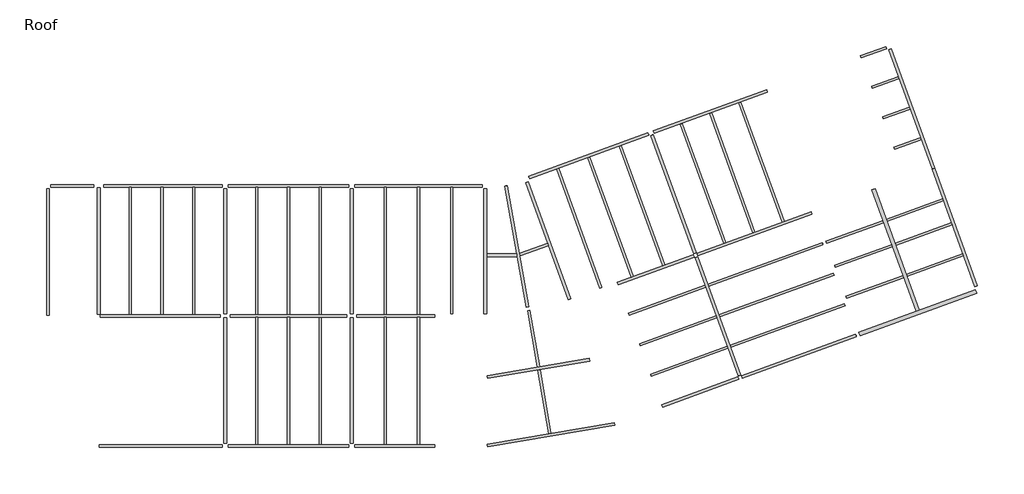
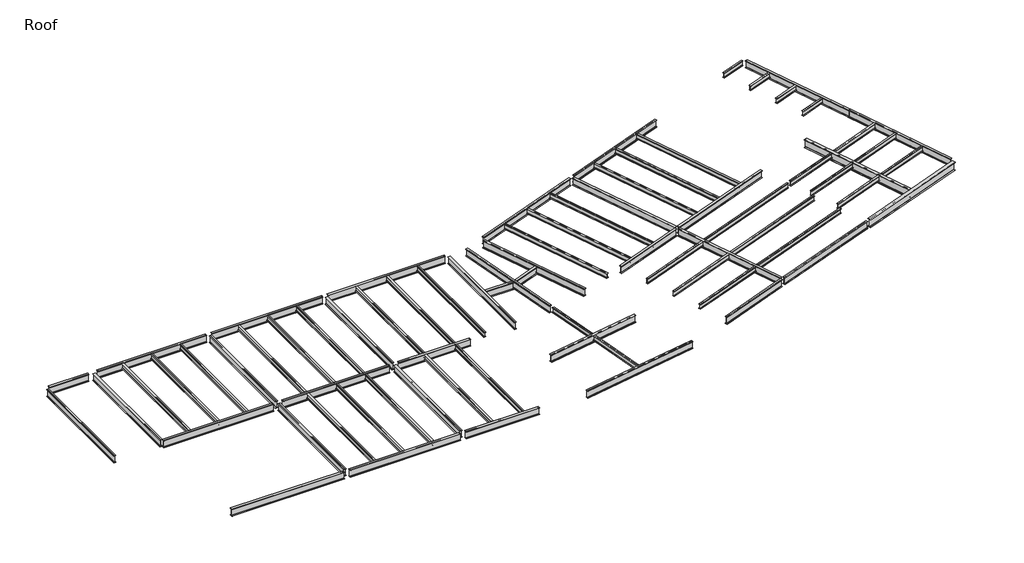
# One storey: 73 beams.
"""IFC4 building model written with IfcOpenShell, lengths in millimetres."""

from ifc_helpers import new_model, si_unit, origin, place, context, project, spatial, transform, mapped, element, save
from components import ub_universal_beams_ub305x127x37_f823aa85, ub_universal_beams_ub305x127x37_cdbcbb51, ub_universal_beams_ub305x127x37_8d1efc97, ub_universal_beams_ub305x127x37_2b7a043a, ub_universal_beams_ub305x127x37_8d2b0bf5, ub_universal_beams_ub305x127x37_16a75a32, ub_universal_beams_ub305x127x37_b9a7bbe5, ub_universal_beams_ub305x127x37_60794b88, ub_universal_beams_ub305x127x37_0c249d50, ub_universal_beams_ub305x127x37_83364cc9, ub_universal_beams_ub305x127x37_55dbae19, ub_universal_beams_ub305x127x37_a7926f5b, ub_universal_beams_ub457x152x67_feb0265b, ub_universal_beams_ub457x152x67_78ad538f, ub_universal_beams_ub457x152x67_801fcbf0, ub_universal_beams_ub457x152x67_7192e0ee, ub_universal_beams_ub457x152x67_e0a47d06, ub_universal_beams_ub457x152x67_f5dc209c, ub_universal_beams_ub457x152x67_f862a4b8, ub_universal_beams_ub457x152x67_66b76362, ub_universal_beams_ub457x152x67_d54c9229, ub_universal_beams_ub457x152x67_f4163d89, ub_universal_beams_ub457x152x67_2e62ce28, ub_universal_beams_ub457x152x67_04894bd8, ub_universal_beams_ub457x152x67_b17e2f2f, ub_universal_beams_ub457x152x67_b2f2df74, ub_universal_beams_ub457x152x67_b8e2def0, ub_universal_beams_ub457x152x67_2ff38e45, ub_universal_beams_ub457x152x67_e84ce350, ub_universal_beams_ub457x152x67_9db4b58f, ub_universal_beams_ub457x152x67_cb9275ae, ub_universal_beams_ub457x152x67_907c3d5a, ub_universal_beams_ub457x152x67_99134ce8, ub_universal_beams_ub457x152x67_aeb7bd67, ub_universal_beams_ub457x152x67_1f1a17ad, ub_universal_beams_ub457x152x67_691381ed, ub_universal_beams_ub457x152x67_d2a0b01a, ub_universal_beams_ub457x152x67_b2398499, ub_universal_beams_ub457x152x67_b57c4d69, ub_universal_beams_ub457x152x67_c54337ad, ub_universal_beams_ub533x210x82_8ec85ef7, ub_universal_beams_ub533x210x82_ef77b3a2

model = new_model("IFC4")

# Units and contexts
model_context = context("Model", 3, world=origin())
ifc_project = project(units=[si_unit("LENGTHUNIT", "METRE", prefix="MILLI")], contexts=[model_context])

# Site, building, storey
site = spatial("IfcSite", under=ifc_project)
building = spatial("IfcBuilding", under=site)
storey = spatial("IfcBuildingStorey", under=building, Name="Roof", Elevation=11700.0)

# Beams
placement = place(None, origin())
ub_universal_beams_ub305x127x37_shape = ub_universal_beams_ub305x127x37_f823aa85(model_context)
element("IfcBeam", 1, ObjectType="UB-Universal Beams : UB305x127x37", at=placement, inside=storey, context=model_context, shape_type="MappedRepresentation", body=[
    mapped(ub_universal_beams_ub305x127x37_shape, transform((9887.2000022, 11613.2000005, 11547.8), x_axis=(0.0, 1.0, 0.0), y_axis=(-1.0, 0.0, 0.0), z_axis=(0.0, 0.0, 1.0))),
])
element("IfcBeam", 2, ObjectType="UB-Universal Beams : UB305x127x37", at=placement, inside=storey, context=model_context, shape_type="MappedRepresentation", body=[
    mapped(ub_universal_beams_ub305x127x37_shape, transform((11712.2000022, 11613.2000005, 11547.8), x_axis=(0.0, 1.0, 0.0), y_axis=(-1.0, 0.0, 0.0), z_axis=(0.0, 0.0, 1.0))),
])
element("IfcBeam", 3, ObjectType="UB-Universal Beams : UB305x127x37", at=placement, inside=storey, context=model_context, shape_type="MappedRepresentation", body=[
    mapped(ub_universal_beams_ub305x127x37_shape, transform((13537.2000023, 11613.2000005, 11547.8), x_axis=(0.0, 1.0, 0.0), y_axis=(-1.0, 0.0, 0.0), z_axis=(0.0, 0.0, 1.0))),
])
element("IfcBeam", 4, ObjectType="UB-Universal Beams : UB305x127x37", at=placement, inside=storey, context=model_context, shape_type="MappedRepresentation", body=[
    mapped(ub_universal_beams_ub305x127x37_shape, transform((17187.2000023, 11613.2000005, 11547.8), x_axis=(0.0, 1.0, 0.0), y_axis=(-1.0, 0.0, 0.0), z_axis=(0.0, 0.0, 1.0))),
])
element("IfcBeam", 5, ObjectType="UB-Universal Beams : UB305x127x37", at=placement, inside=storey, context=model_context, shape_type="MappedRepresentation", body=[
    mapped(ub_universal_beams_ub305x127x37_shape, transform((19012.2000023, 11613.2000005, 11547.8), x_axis=(0.0, 1.0, 0.0), y_axis=(-1.0, 0.0, 0.0), z_axis=(0.0, 0.0, 1.0))),
])
element("IfcBeam", 6, ObjectType="UB-Universal Beams : UB305x127x37", at=placement, inside=storey, context=model_context, shape_type="MappedRepresentation", body=[
    mapped(ub_universal_beams_ub305x127x37_shape, transform((20837.2000022, 11613.2000005, 11547.8), x_axis=(0.0, 1.0, 0.0), y_axis=(-1.0, 0.0, 0.0), z_axis=(0.0, 0.0, 1.0))),
])
element("IfcBeam", 7, ObjectType="UB-Universal Beams : UB305x127x37", at=placement, inside=storey, context=model_context, shape_type="MappedRepresentation", body=[
    mapped(ub_universal_beams_ub305x127x37_shape, transform((24587.2000022, 11613.2000005, 11547.8), x_axis=(0.0, 1.0, 0.0), y_axis=(-1.0, 0.0, 0.0), z_axis=(0.0, 0.0, 1.0))),
])
element("IfcBeam", 8, ObjectType="UB-Universal Beams : UB305x127x37", at=placement, inside=storey, context=model_context, shape_type="MappedRepresentation", body=[
    mapped(ub_universal_beams_ub305x127x37_shape, transform((26512.2000022, 11613.2000005, 11547.8), x_axis=(0.0, 1.0, 0.0), y_axis=(-1.0, 0.0, 0.0), z_axis=(0.0, 0.0, 1.0))),
])
element("IfcBeam", 9, ObjectType="UB-Universal Beams : UB305x127x37", at=placement, inside=storey, context=model_context, shape_type="MappedRepresentation", body=[
    mapped(ub_universal_beams_ub305x127x37_shape, transform((17187.2000022, 4113.2000005, 11547.8), x_axis=(0.0, 1.0, 0.0), y_axis=(-1.0, 0.0, 0.0), z_axis=(0.0, 0.0, 1.0))),
])
element("IfcBeam", 10, ObjectType="UB-Universal Beams : UB305x127x37", at=placement, inside=storey, context=model_context, shape_type="MappedRepresentation", body=[
    mapped(ub_universal_beams_ub305x127x37_shape, transform((19012.2000022, 4113.2000005, 11547.8), x_axis=(0.0, 1.0, 0.0), y_axis=(-1.0, 0.0, 0.0), z_axis=(0.0, 0.0, 1.0))),
])
element("IfcBeam", 11, ObjectType="UB-Universal Beams : UB305x127x37", at=placement, inside=storey, context=model_context, shape_type="MappedRepresentation", body=[
    mapped(ub_universal_beams_ub305x127x37_shape, transform((20837.2000022, 4113.2000005, 11547.8), x_axis=(0.0, 1.0, 0.0), y_axis=(-1.0, 0.0, 0.0), z_axis=(0.0, 0.0, 1.0))),
])
element("IfcBeam", 12, ObjectType="UB-Universal Beams : UB305x127x37", at=placement, inside=storey, context=model_context, shape_type="MappedRepresentation", body=[
    mapped(ub_universal_beams_ub305x127x37_shape, transform((24587.2000022, 4113.2000004, 11547.8), x_axis=(0.0, 1.0, 0.0), y_axis=(-1.0, 0.0, 0.0), z_axis=(0.0, 0.0, 1.0))),
])
element("IfcBeam", 13, ObjectType="UB-Universal Beams : UB305x127x37", at=placement, inside=storey, context=model_context, shape_type="MappedRepresentation", body=[
    mapped(ub_universal_beams_ub305x127x37_shape, transform((26512.2000022, 4113.2000004, 11547.8), x_axis=(0.0, 1.0, 0.0), y_axis=(-1.0, 0.0, 0.0), z_axis=(0.0, 0.0, 1.0))),
])
element("IfcBeam", 14, ObjectType="UB-Universal Beams : UB305x127x37", at=placement, inside=storey, context=model_context, shape_type="MappedRepresentation", body=[
    mapped(ub_universal_beams_ub305x127x37_shape, transform((39409.0148654, 14226.6858637, 11547.8), x_axis=(0.34202014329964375, -0.9396926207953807, 0.0), y_axis=(0.9396926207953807, 0.34202014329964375, 0.0), z_axis=(0.0, 0.0, 1.0))),
])
element("IfcBeam", 15, ObjectType="UB-Universal Beams : UB305x127x37", at=placement, inside=storey, context=model_context, shape_type="MappedRepresentation", body=[
    mapped(ub_universal_beams_ub305x127x37_shape, transform((37600.1065704, 13568.2970878, 11547.8), x_axis=(0.34202014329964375, -0.9396926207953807, 0.0), y_axis=(0.9396926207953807, 0.34202014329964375, 0.0), z_axis=(0.0, 0.0, 1.0))),
])
element("IfcBeam", 16, ObjectType="UB-Universal Beams : UB305x127x37", at=placement, inside=storey, context=model_context, shape_type="MappedRepresentation", body=[
    mapped(ub_universal_beams_ub305x127x37_shape, transform((42915.2429568, 15502.8485233, 11547.8), x_axis=(-0.3420201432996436, 0.9396926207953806, 0.0), y_axis=(-0.9396926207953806, -0.3420201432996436, 0.0), z_axis=(0.0, 0.0, 1.0))),
])
element("IfcBeam", 17, ObjectType="UB-Universal Beams : UB305x127x37", at=placement, inside=storey, context=model_context, shape_type="MappedRepresentation", body=[
    mapped(ub_universal_beams_ub305x127x37_shape, transform((44612.5627531, 16120.6224071, 11547.8), x_axis=(-0.34202014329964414, 0.9396926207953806, 0.0), y_axis=(-0.9396926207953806, -0.34202014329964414, 0.0), z_axis=(0.0, 0.0, 1.0))),
])
element("IfcBeam", 18, ObjectType="UB-Universal Beams : UB305x127x37", at=placement, inside=storey, context=model_context, shape_type="MappedRepresentation", body=[
    mapped(ub_universal_beams_ub305x127x37_shape, transform((46309.8825494, 16738.396291, 11547.8), x_axis=(-0.34202014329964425, 0.9396926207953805, 0.0), y_axis=(-0.9396926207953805, -0.34202014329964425, 0.0), z_axis=(0.0, 0.0, 1.0))),
])
ub_universal_beams_ub305x127x37_2_shape = ub_universal_beams_ub305x127x37_cdbcbb51(model_context)
element("IfcBeam", 19, ObjectType="UB-Universal Beams : UB305x127x37", at=placement, inside=storey, context=model_context, shape_type="MappedRepresentation", body=[
    mapped(ub_universal_beams_ub305x127x37_2_shape, transform((28437.2000022, 11613.2000005, 11547.8), x_axis=(0.0, 1.0, 0.0), y_axis=(-1.0, 0.0, 0.0), z_axis=(0.0, 0.0, 1.0))),
])
ub_universal_beams_ub305x127x37_3_shape = ub_universal_beams_ub305x127x37_8d1efc97(model_context)
element("IfcBeam", 20, ObjectType="UB-Universal Beams : UB305x127x37", at=placement, inside=storey, context=model_context, shape_type="MappedRepresentation", body=[
    mapped(ub_universal_beams_ub305x127x37_3_shape, transform((35791.1982754, 12909.908312, 11547.8), x_axis=(0.3420201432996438, -0.9396926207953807, 0.0), y_axis=(0.9396926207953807, 0.3420201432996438, 0.0), z_axis=(0.0, 0.0, 1.0))),
])
ub_universal_beams_ub305x127x37_4_shape = ub_universal_beams_ub305x127x37_2b7a043a(model_context)
element("IfcBeam", 21, ObjectType="UB-Universal Beams : UB305x127x37", at=placement, inside=storey, context=model_context, shape_type="MappedRepresentation", body=[
    mapped(ub_universal_beams_ub305x127x37_4_shape, transform((42122.1150828, 5237.5069684, 11547.8), x_axis=(-0.939692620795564, -0.3420201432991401, 0.0), y_axis=(0.3420201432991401, -0.939692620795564, 0.0), z_axis=(0.0, 0.0, 1.0))),
])
element("IfcBeam", 22, ObjectType="UB-Universal Beams : UB305x127x37", at=placement, inside=storey, context=model_context, shape_type="MappedRepresentation", body=[
    mapped(ub_universal_beams_ub305x127x37_4_shape, transform((41480.8273141, 6999.4306323, 11547.8), x_axis=(-0.9396926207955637, -0.3420201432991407, 0.0), y_axis=(0.3420201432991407, -0.9396926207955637, 0.0), z_axis=(0.0, 0.0, 1.0))),
])
element("IfcBeam", 23, ObjectType="UB-Universal Beams : UB305x127x37", at=placement, inside=storey, context=model_context, shape_type="MappedRepresentation", body=[
    mapped(ub_universal_beams_ub305x127x37_4_shape, transform((40839.5395455, 8761.3542963, 11547.8), x_axis=(-0.939692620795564, -0.3420201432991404, 0.0), y_axis=(0.3420201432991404, -0.939692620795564, 0.0), z_axis=(0.0, 0.0, 1.0))),
])
ub_universal_beams_ub305x127x37_5_shape = ub_universal_beams_ub305x127x37_8d2b0bf5(model_context)
element("IfcBeam", 24, ObjectType="UB-Universal Beams : UB305x127x37", at=placement, inside=storey, context=model_context, shape_type="MappedRepresentation", body=[
    mapped(ub_universal_beams_ub305x127x37_5_shape, transform((46536.4260592, 10834.8514152, 11547.8), x_axis=(0.9396926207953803, 0.342020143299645, 0.0), y_axis=(-0.342020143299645, 0.9396926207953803, 0.0), z_axis=(0.0, 0.0, 1.0))),
])
element("IfcBeam", 25, ObjectType="UB-Universal Beams : UB305x127x37", at=placement, inside=storey, context=model_context, shape_type="MappedRepresentation", body=[
    mapped(ub_universal_beams_ub305x127x37_5_shape, transform((47177.7138279, 9072.9277512, 11547.8), x_axis=(0.93969262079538, 0.34202014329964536, 0.0), y_axis=(-0.34202014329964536, 0.93969262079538, 0.0), z_axis=(0.0, 0.0, 1.0))),
])
element("IfcBeam", 26, ObjectType="UB-Universal Beams : UB305x127x37", at=placement, inside=storey, context=model_context, shape_type="MappedRepresentation", body=[
    mapped(ub_universal_beams_ub305x127x37_5_shape, transform((47819.0015966, 7311.0040872, 11547.8), x_axis=(0.9396926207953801, 0.3420201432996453, 0.0), y_axis=(-0.3420201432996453, 0.9396926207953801, 0.0), z_axis=(0.0, 0.0, 1.0))),
])
ub_universal_beams_ub305x127x37_6_shape = ub_universal_beams_ub305x127x37_16a75a32(model_context)
element("IfcBeam", 27, ObjectType="UB-Universal Beams : UB305x127x37", at=placement, inside=storey, context=model_context, shape_type="MappedRepresentation", body=[
    mapped(ub_universal_beams_ub305x127x37_6_shape, transform((52185.7228693, 11321.365084, 11547.8), x_axis=(0.9396926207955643, 0.3420201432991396, 0.0), y_axis=(-0.3420201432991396, 0.9396926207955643, 0.0), z_axis=(0.0, 0.0, 1.0))),
])
element("IfcBeam", 28, ObjectType="UB-Universal Beams : UB305x127x37", at=placement, inside=storey, context=model_context, shape_type="MappedRepresentation", body=[
    mapped(ub_universal_beams_ub305x127x37_6_shape, transform((51681.2431579, 12707.4116997, 11547.8), x_axis=(0.9396926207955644, 0.34202014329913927, 0.0), y_axis=(-0.34202014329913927, 0.9396926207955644, 0.0), z_axis=(0.0, 0.0, 1.0))),
])
ub_universal_beams_ub305x127x37_7_shape = ub_universal_beams_ub305x127x37_b9a7bbe5(model_context)
element("IfcBeam", 29, ObjectType="UB-Universal Beams : UB305x127x37", at=placement, inside=storey, context=model_context, shape_type="MappedRepresentation", body=[
    mapped(ub_universal_beams_ub305x127x37_7_shape, transform((55650.8394085, 12582.5643624, 11547.8), x_axis=(0.939692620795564, 0.34202014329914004, 0.0), y_axis=(-0.34202014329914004, 0.939692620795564, 0.0), z_axis=(0.0, 0.0, 1.0))),
])
element("IfcBeam", 30, ObjectType="UB-Universal Beams : UB305x127x37", at=placement, inside=storey, context=model_context, shape_type="MappedRepresentation", body=[
    mapped(ub_universal_beams_ub305x127x37_7_shape, transform((56300.6776807, 10797.1483829, 11547.8), x_axis=(0.9396926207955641, 0.3420201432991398, 0.0), y_axis=(-0.3420201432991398, 0.9396926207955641, 0.0), z_axis=(0.0, 0.0, 1.0))),
])
element("IfcBeam", 31, ObjectType="UB-Universal Beams : UB305x127x37", at=placement, inside=storey, context=model_context, shape_type="MappedRepresentation", body=[
    mapped(ub_universal_beams_ub305x127x37_7_shape, transform((55146.3596971, 13968.6109781, 11547.8), x_axis=(0.9396926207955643, 0.34202014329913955, 0.0), y_axis=(-0.34202014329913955, 0.9396926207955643, 0.0), z_axis=(0.0, 0.0, 1.0))),
])
ub_universal_beams_ub305x127x37_8_shape = ub_universal_beams_ub305x127x37_60794b88(model_context)
element("IfcBeam", 32, ObjectType="UB-Universal Beams : UB305x127x37", at=placement, inside=storey, context=model_context, shape_type="MappedRepresentation", body=[
    mapped(ub_universal_beams_ub305x127x37_8_shape, transform((53431.3248942, 21325.7226526, 11547.8), x_axis=(-0.939692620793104, -0.34202014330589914, 0.0), y_axis=(0.34202014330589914, -0.939692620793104, 0.0), z_axis=(0.0, 0.0, 1.0))),
])
element("IfcBeam", 33, ObjectType="UB-Universal Beams : UB305x127x37", at=placement, inside=storey, context=model_context, shape_type="MappedRepresentation", body=[
    mapped(ub_universal_beams_ub305x127x37_8_shape, transform((54072.6126629, 19563.7989886, 11547.8), x_axis=(-0.939692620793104, -0.3420201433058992, 0.0), y_axis=(0.3420201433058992, -0.939692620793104, 0.0), z_axis=(0.0, 0.0, 1.0))),
])
element("IfcBeam", 34, ObjectType="UB-Universal Beams : UB305x127x37", at=placement, inside=storey, context=model_context, shape_type="MappedRepresentation", body=[
    mapped(ub_universal_beams_ub305x127x37_8_shape, transform((54713.9004316, 17801.8753247, 11547.8), x_axis=(-0.939692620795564, -0.34202014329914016, 0.0), y_axis=(0.34202014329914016, -0.939692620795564, 0.0), z_axis=(0.0, 0.0, 1.0))),
])
ub_universal_beams_ub305x127x37_9_shape = ub_universal_beams_ub305x127x37_0c249d50(model_context)
element("IfcBeam", 35, ObjectType="UB-Universal Beams : UB305x127x37", at=placement, inside=storey, context=model_context, shape_type="MappedRepresentation", body=[
    mapped(ub_universal_beams_ub305x127x37_9_shape, transform((52835.5611416, 9535.9491045, 11547.8), x_axis=(-0.9396926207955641, -0.34202014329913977, 0.0), y_axis=(0.34202014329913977, -0.9396926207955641, 0.0), z_axis=(0.0, 0.0, 1.0))),
])
ub_universal_beams_ub305x127x37_10_shape = ub_universal_beams_ub305x127x37_83364cc9(model_context)
element("IfcBeam", 36, ObjectType="UB-Universal Beams : UB305x127x37", at=placement, inside=storey, context=model_context, shape_type="MappedRepresentation", body=[
    mapped(ub_universal_beams_ub305x127x37_10_shape, transform((33777.5903073, 2919.2792248, 11547.8), x_axis=(-0.16767868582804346, 0.9858417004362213, 0.0), y_axis=(-0.9858417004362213, -0.16767868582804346, 0.0), z_axis=(0.0, 0.0, 1.0))),
])
ub_universal_beams_ub305x127x37_11_shape = ub_universal_beams_ub305x127x37_55dbae19(model_context)
element("IfcBeam", 37, ObjectType="UB-Universal Beams : UB305x127x37", at=placement, inside=storey, context=model_context, shape_type="MappedRepresentation", body=[
    mapped(ub_universal_beams_ub305x127x37_11_shape, transform((33147.2993723, 6561.7719088, 11547.8), x_axis=(-0.17364817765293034, 0.9848077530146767, 0.0), y_axis=(-0.9848077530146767, -0.17364817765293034, 0.0), z_axis=(0.0, 0.0, 1.0))),
])
ub_universal_beams_ub305x127x37_12_shape = ub_universal_beams_ub305x127x37_a7926f5b(model_context)
element("IfcBeam", 38, ObjectType="UB-Universal Beams : UB305x127x37", at=placement, inside=storey, context=model_context, shape_type="MappedRepresentation", body=[
    mapped(ub_universal_beams_ub305x127x37_12_shape, transform((52790.0371255, 23087.6463166, 11547.8), x_axis=(-0.939692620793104, -0.34202014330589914, 0.0), y_axis=(0.34202014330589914, -0.939692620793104, 0.0), z_axis=(0.0, 0.0, 1.0))),
])
ub_universal_beams_ub457x152x67_shape = ub_universal_beams_ub457x152x67_feb0265b(model_context)
element("IfcBeam", 39, ObjectType="UB-Universal Beams : UB457x152x67", at=placement, inside=storey, context=model_context, shape_type="MappedRepresentation", body=[
    mapped(ub_universal_beams_ub457x152x67_shape, transform((32191.7898055, 11821.5156209, 11471.0), x_axis=(0.173648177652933, -0.9848077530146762, 0.0), y_axis=(0.9848077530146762, 0.173648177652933, 0.0), z_axis=(0.0, 0.0, 1.0))),
])
ub_universal_beams_ub457x152x67_2_shape = ub_universal_beams_ub457x152x67_78ad538f(model_context)
element("IfcBeam", 40, ObjectType="UB-Universal Beams : UB457x152x67", at=placement, inside=storey, context=model_context, shape_type="MappedRepresentation", body=[
    mapped(ub_universal_beams_ub457x152x67_2_shape, transform((31317.5755278, 11361.2273115, 11471.0), x_axis=(1.0, 0.0, 0.0), y_axis=(0.0, 1.0, 0.0), z_axis=(0.0, 0.0, 1.0))),
])
ub_universal_beams_ub457x152x67_3_shape = ub_universal_beams_ub457x152x67_801fcbf0(model_context)
element("IfcBeam", 41, ObjectType="UB-Universal Beams : UB457x152x67", at=placement, inside=storey, context=model_context, shape_type="MappedRepresentation", body=[
    mapped(ub_universal_beams_ub457x152x67_3_shape, transform((33170.7103845, 11687.9849855, 11471.0), x_axis=(0.9396926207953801, 0.3420201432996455, 0.0), y_axis=(-0.3420201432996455, 0.9396926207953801, 0.0), z_axis=(0.0, 0.0, 1.0))),
])
ub_universal_beams_ub457x152x67_4_shape = ub_universal_beams_ub457x152x67_7192e0ee(model_context)
element("IfcBeam", 42, ObjectType="UB-Universal Beams : UB457x152x67", at=placement, inside=storey, context=model_context, shape_type="MappedRepresentation", body=[
    mapped(ub_universal_beams_ub457x152x67_4_shape, transform((45895.1382905, 12596.7750792, 11471.0), x_axis=(0.9396926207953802, 0.34202014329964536, 0.0), y_axis=(-0.34202014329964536, 0.9396926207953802, 0.0), z_axis=(0.0, 0.0, 1.0))),
])
element("IfcBeam", 43, ObjectType="UB-Universal Beams : UB457x152x67", at=placement, inside=storey, context=model_context, shape_type="MappedRepresentation", body=[
    mapped(ub_universal_beams_ub457x152x67_4_shape, transform((48460.2893652, 5549.0804232, 11471.0), x_axis=(0.9396926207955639, 0.3420201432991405, 0.0), y_axis=(-0.3420201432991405, 0.9396926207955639, 0.0), z_axis=(0.0, 0.0, 1.0))),
])
ub_universal_beams_ub457x152x67_5_shape = ub_universal_beams_ub457x152x67_e0a47d06(model_context)
element("IfcBeam", 44, ObjectType="UB-Universal Beams : UB457x152x67", at=placement, inside=storey, context=model_context, shape_type="MappedRepresentation", body=[
    mapped(ub_universal_beams_ub457x152x67_5_shape, transform((40198.2517768, 10523.2779603, 11471.0), x_axis=(0.9396926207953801, 0.34202014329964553, 0.0), y_axis=(-0.34202014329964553, 0.9396926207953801, 0.0), z_axis=(0.0, 0.0, 1.0))),
])
ub_universal_beams_ub457x152x67_6_shape = ub_universal_beams_ub457x152x67_f5dc209c(model_context)
element("IfcBeam", 45, ObjectType="UB-Universal Beams : UB457x152x67", at=placement, inside=storey, context=model_context, shape_type="MappedRepresentation", body=[
    mapped(ub_universal_beams_ub457x152x67_6_shape, transform((41217.9231605, 14885.0746394, 11471.0), x_axis=(-0.3420201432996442, 0.9396926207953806, 0.0), y_axis=(-0.9396926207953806, -0.3420201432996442, 0.0), z_axis=(0.0, 0.0, 1.0))),
])
element("IfcBeam", 46, ObjectType="UB-Universal Beams : UB457x152x67", at=placement, inside=storey, context=model_context, shape_type="MappedRepresentation", body=[
    mapped(ub_universal_beams_ub457x152x67_6_shape, transform((43783.0742352, 7837.3799835, 11471.0), x_axis=(-0.3420201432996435, 0.939692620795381, 0.0), y_axis=(-0.939692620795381, -0.3420201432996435, 0.0), z_axis=(0.0, 0.0, 1.0))),
])
ub_universal_beams_ub457x152x67_7_shape = ub_universal_beams_ub457x152x67_f862a4b8(model_context)
element("IfcBeam", 47, ObjectType="UB-Universal Beams : UB457x152x67", at=placement, inside=storey, context=model_context, shape_type="MappedRepresentation", body=[
    mapped(ub_universal_beams_ub457x152x67_7_shape, transform((42763.4028515, 3475.5833044, 11471.0), x_axis=(-0.9396926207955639, -0.34202014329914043, 0.0), y_axis=(0.34202014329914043, -0.9396926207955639, 0.0), z_axis=(0.0, 0.0, 1.0))),
])
ub_universal_beams_ub457x152x67_8_shape = ub_universal_beams_ub457x152x67_66b76362(model_context)
element("IfcBeam", 48, ObjectType="UB-Universal Beams : UB457x152x67", at=placement, inside=storey, context=model_context, shape_type="MappedRepresentation", body=[
    mapped(ub_universal_beams_ub457x152x67_8_shape, transform((34104.0944675, 999.6469535, 11471.0), x_axis=(0.985841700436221, 0.1676786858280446, 0.0), y_axis=(-0.1676786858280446, 0.985841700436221, 0.0), z_axis=(0.0, 0.0, 1.0))),
])
ub_universal_beams_ub457x152x67_9_shape = ub_universal_beams_ub457x152x67_d54c9229(model_context)
element("IfcBeam", 49, ObjectType="UB-Universal Beams : UB457x152x67", at=placement, inside=storey, context=model_context, shape_type="MappedRepresentation", body=[
    mapped(ub_universal_beams_ub457x152x67_9_shape, transform((33427.1029223, 4834.8322654, 11471.0), x_axis=(0.9858417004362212, 0.1676786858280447, 0.0), y_axis=(-0.1676786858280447, 0.9858417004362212, 0.0), z_axis=(0.0, 0.0, 1.0))),
])
ub_universal_beams_ub457x152x67_10_shape = ub_universal_beams_ub457x152x67_f4163d89(model_context)
element("IfcBeam", 50, ObjectType="UB-Universal Beams : UB457x152x67", at=placement, inside=storey, context=model_context, shape_type="MappedRepresentation", body=[
    mapped(ub_universal_beams_ub457x152x67_10_shape, transform((19012.2000023, 7863.2000004, 11471.0), x_axis=(1.0, 0.0, 0.0), y_axis=(0.0, 1.0, 0.0), z_axis=(0.0, 0.0, 1.0))),
])
ub_universal_beams_ub457x152x67_11_shape = ub_universal_beams_ub457x152x67_2e62ce28(model_context)
element("IfcBeam", 51, ObjectType="UB-Universal Beams : UB457x152x67", at=placement, inside=storey, context=model_context, shape_type="MappedRepresentation", body=[
    mapped(ub_universal_beams_ub457x152x67_11_shape, transform((25112.2000025, 7863.2000004, 11471.0), x_axis=(1.0, 0.0, 0.0), y_axis=(0.0, 1.0, 0.0), z_axis=(0.0, 0.0, 1.0))),
])
ub_universal_beams_ub457x152x67_12_shape = ub_universal_beams_ub457x152x67_04894bd8(model_context)
element("IfcBeam", 52, ObjectType="UB-Universal Beams : UB457x152x67", at=placement, inside=storey, context=model_context, shape_type="MappedRepresentation", body=[
    mapped(ub_universal_beams_ub457x152x67_12_shape, transform((57502.5864988, 12830.8740757, 11471.0), x_axis=(0.3420201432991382, -0.9396926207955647, 0.0), y_axis=(0.9396926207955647, 0.3420201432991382, 0.0), z_axis=(0.0, 0.0, 1.0))),
])
ub_universal_beams_ub457x152x67_13_shape = ub_universal_beams_ub457x152x67_b17e2f2f(model_context)
element("IfcBeam", 53, ObjectType="UB-Universal Beams : UB457x152x67", at=placement, inside=storey, context=model_context, shape_type="MappedRepresentation", body=[
    mapped(ub_universal_beams_ub457x152x67_13_shape, transform((11712.2000023, 15363.2000005, 11471.0), x_axis=(1.0, 0.0, 0.0), y_axis=(0.0, 1.0, 0.0), z_axis=(0.0, 0.0, 1.0))),
])
ub_universal_beams_ub457x152x67_14_shape = ub_universal_beams_ub457x152x67_b2f2df74(model_context)
element("IfcBeam", 54, ObjectType="UB-Universal Beams : UB457x152x67", at=placement, inside=storey, context=model_context, shape_type="MappedRepresentation", body=[
    mapped(ub_universal_beams_ub457x152x67_14_shape, transform((19012.2000023, 15363.2000005, 11471.0), x_axis=(1.0, 0.0, 0.0), y_axis=(0.0, 1.0, 0.0), z_axis=(0.0, 0.0, 1.0))),
])
element("IfcBeam", 55, ObjectType="UB-Universal Beams : UB457x152x67", at=placement, inside=storey, context=model_context, shape_type="MappedRepresentation", body=[
    mapped(ub_universal_beams_ub457x152x67_14_shape, transform((19012.2000022, 363.2000005, 11471.0), x_axis=(1.0, 0.0, 0.0), y_axis=(0.0, 1.0, 0.0), z_axis=(0.0, 0.0, 1.0))),
])
ub_universal_beams_ub457x152x67_15_shape = ub_universal_beams_ub457x152x67_b8e2def0(model_context)
element("IfcBeam", 56, ObjectType="UB-Universal Beams : UB457x152x67", at=placement, inside=storey, context=model_context, shape_type="MappedRepresentation", body=[
    mapped(ub_universal_beams_ub457x152x67_15_shape, transform((11674.7000023, 363.2000005, 11471.0), x_axis=(-1.0, 0.0, 0.0), y_axis=(0.0, -1.0, 0.0), z_axis=(0.0, 0.0, 1.0))),
])
ub_universal_beams_ub457x152x67_16_shape = ub_universal_beams_ub457x152x67_2ff38e45(model_context)
element("IfcBeam", 57, ObjectType="UB-Universal Beams : UB457x152x67", at=placement, inside=storey, context=model_context, shape_type="MappedRepresentation", body=[
    mapped(ub_universal_beams_ub457x152x67_16_shape, transform((25112.2000025, 363.2000005, 11471.0), x_axis=(1.0, 0.0, 0.0), y_axis=(0.0, 1.0, 0.0), z_axis=(0.0, 0.0, 1.0))),
])
ub_universal_beams_ub457x152x67_17_shape = ub_universal_beams_ub457x152x67_e84ce350(model_context)
element("IfcBeam", 58, ObjectType="UB-Universal Beams : UB457x152x67", at=placement, inside=storey, context=model_context, shape_type="MappedRepresentation", body=[
    mapped(ub_universal_beams_ub457x152x67_17_shape, transform((15362.2000023, 4113.2000005, 11471.0), x_axis=(0.0, 1.0, 0.0), y_axis=(-1.0, 0.0, 0.0), z_axis=(0.0, 0.0, 1.0))),
])
element("IfcBeam", 59, ObjectType="UB-Universal Beams : UB457x152x67", at=placement, inside=storey, context=model_context, shape_type="MappedRepresentation", body=[
    mapped(ub_universal_beams_ub457x152x67_17_shape, transform((22662.2000022, 4113.2000005, 11471.0), x_axis=(0.0, 1.0, 0.0), y_axis=(-1.0, 0.0, 0.0), z_axis=(0.0, 0.0, 1.0))),
])
ub_universal_beams_ub457x152x67_18_shape = ub_universal_beams_ub457x152x67_9db4b58f(model_context)
element("IfcBeam", 60, ObjectType="UB-Universal Beams : UB457x152x67", at=placement, inside=storey, context=model_context, shape_type="MappedRepresentation", body=[
    mapped(ub_universal_beams_ub457x152x67_18_shape, transform((15362.2000023, 11613.2000005, 11471.0), x_axis=(0.0, 1.0, 0.0), y_axis=(-1.0, 0.0, 0.0), z_axis=(0.0, 0.0, 1.0))),
])
element("IfcBeam", 61, ObjectType="UB-Universal Beams : UB457x152x67", at=placement, inside=storey, context=model_context, shape_type="MappedRepresentation", body=[
    mapped(ub_universal_beams_ub457x152x67_18_shape, transform((22662.2000022, 11613.2000005, 11471.0), x_axis=(0.0, 1.0, 0.0), y_axis=(-1.0, 0.0, 0.0), z_axis=(0.0, 0.0, 1.0))),
])
ub_universal_beams_ub457x152x67_19_shape = ub_universal_beams_ub457x152x67_cb9275ae(model_context)
element("IfcBeam", 62, ObjectType="UB-Universal Beams : UB457x152x67", at=placement, inside=storey, context=model_context, shape_type="MappedRepresentation", body=[
    mapped(ub_universal_beams_ub457x152x67_19_shape, transform((43329.9872158, 19644.4697351, 11471.0), x_axis=(0.9396926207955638, 0.3420201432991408, 0.0), y_axis=(-0.3420201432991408, 0.9396926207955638, 0.0), z_axis=(0.0, 0.0, 1.0))),
])
ub_universal_beams_ub457x152x67_20_shape = ub_universal_beams_ub457x152x67_907c3d5a(model_context)
element("IfcBeam", 63, ObjectType="UB-Universal Beams : UB457x152x67", at=placement, inside=storey, context=model_context, shape_type="MappedRepresentation", body=[
    mapped(ub_universal_beams_ub457x152x67_20_shape, transform((54937.4354241, 19878.5687316, 11471.0), x_axis=(-0.3420201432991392, 0.9396926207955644, 0.0), y_axis=(-0.9396926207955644, -0.3420201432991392, 0.0), z_axis=(0.0, 0.0, 1.0))),
])
ub_universal_beams_ub457x152x67_21_shape = ub_universal_beams_ub457x152x67_99134ce8(model_context)
element("IfcBeam", 64, ObjectType="UB-Universal Beams : UB457x152x67", at=placement, inside=storey, context=model_context, shape_type="MappedRepresentation", body=[
    mapped(ub_universal_beams_ub457x152x67_21_shape, transform((6543.0666692, 15363.2000005, 11471.0), x_axis=(1.0, 0.0, 0.0), y_axis=(0.0, 1.0, 0.0), z_axis=(0.0, 0.0, 1.0))),
])
ub_universal_beams_ub457x152x67_22_shape = ub_universal_beams_ub457x152x67_aeb7bd67(model_context)
element("IfcBeam", 65, ObjectType="UB-Universal Beams : UB457x152x67", at=placement, inside=storey, context=model_context, shape_type="MappedRepresentation", body=[
    mapped(ub_universal_beams_ub457x152x67_22_shape, transform((5131.8666692, 11575.7000004, 11471.0), x_axis=(0.0, -1.0, 0.0), y_axis=(1.0, 0.0, 0.0), z_axis=(0.0, 0.0, 1.0))),
])
ub_universal_beams_ub457x152x67_23_shape = ub_universal_beams_ub457x152x67_1f1a17ad(model_context)
element("IfcBeam", 66, ObjectType="UB-Universal Beams : UB457x152x67", at=placement, inside=storey, context=model_context, shape_type="MappedRepresentation", body=[
    mapped(ub_universal_beams_ub457x152x67_23_shape, transform((26512.2000022, 15363.2000005, 11471.0), x_axis=(1.0, 0.0, 0.0), y_axis=(0.0, 1.0, 0.0), z_axis=(0.0, 0.0, 1.0))),
])
ub_universal_beams_ub457x152x67_24_shape = ub_universal_beams_ub457x152x67_691381ed(model_context)
element("IfcBeam", 67, ObjectType="UB-Universal Beams : UB457x152x67", at=placement, inside=storey, context=model_context, shape_type="MappedRepresentation", body=[
    mapped(ub_universal_beams_ub457x152x67_24_shape, transform((30362.2000022, 11613.2000005, 11471.0), x_axis=(0.0, 1.0, 0.0), y_axis=(-1.0, 0.0, 0.0), z_axis=(0.0, 0.0, 1.0))),
])
ub_universal_beams_ub457x152x67_25_shape = ub_universal_beams_ub457x152x67_d2a0b01a(model_context)
element("IfcBeam", 68, ObjectType="UB-Universal Beams : UB457x152x67", at=placement, inside=storey, context=model_context, shape_type="MappedRepresentation", body=[
    mapped(ub_universal_beams_ub457x152x67_25_shape, transform((33982.2899804, 12251.5195361, 11471.0), x_axis=(0.3420201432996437, -0.9396926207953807, 0.0), y_axis=(0.9396926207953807, 0.3420201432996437, 0.0), z_axis=(0.0, 0.0, 1.0))),
])
ub_universal_beams_ub457x152x67_26_shape = ub_universal_beams_ub457x152x67_b2398499(model_context)
element("IfcBeam", 69, ObjectType="UB-Universal Beams : UB457x152x67", at=placement, inside=storey, context=model_context, shape_type="MappedRepresentation", body=[
    mapped(ub_universal_beams_ub457x152x67_26_shape, transform((36317.5310328, 17092.1444158, 11471.0), x_axis=(0.9396926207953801, 0.3420201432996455, 0.0), y_axis=(-0.3420201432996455, 0.9396926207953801, 0.0), z_axis=(0.0, 0.0, 1.0))),
])
ub_universal_beams_ub457x152x67_27_shape = ub_universal_beams_ub457x152x67_b57c4d69(model_context)
element("IfcBeam", 70, ObjectType="UB-Universal Beams : UB457x152x67", at=placement, inside=storey, context=model_context, shape_type="MappedRepresentation", body=[
    mapped(ub_universal_beams_ub457x152x67_27_shape, transform((11712.2000022, 7863.2000004, 11471.0), x_axis=(-1.0, 0.0, 0.0), y_axis=(0.0, -1.0, 0.0), z_axis=(0.0, 0.0, 1.0))),
])
ub_universal_beams_ub457x152x67_28_shape = ub_universal_beams_ub457x152x67_c54337ad(model_context)
element("IfcBeam", 71, ObjectType="UB-Universal Beams : UB457x152x67", at=placement, inside=storey, context=model_context, shape_type="MappedRepresentation", body=[
    mapped(ub_universal_beams_ub457x152x67_28_shape, transform((8062.2000022, 11613.2000005, 11471.0), x_axis=(0.0, 1.0, 0.0), y_axis=(-1.0, 0.0, 0.0), z_axis=(0.0, 0.0, 1.0))),
])
ub_universal_beams_ub533x210x82_shape = ub_universal_beams_ub533x210x82_8ec85ef7(model_context)
element("IfcBeam", 72, ObjectType="UB-Universal Beams : UB533x210x82", at=placement, inside=storey, context=model_context, shape_type="MappedRepresentation", body=[
    mapped(ub_universal_beams_ub533x210x82_shape, transform((54042.3541451, 11665.8982726, 11435.85), x_axis=(-0.34202014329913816, 0.9396926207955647, 0.0), y_axis=(-0.9396926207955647, -0.34202014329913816, 0.0), z_axis=(0.0, 0.0, 1.0))),
])
ub_universal_beams_ub533x210x82_2_shape = ub_universal_beams_ub533x210x82_ef77b3a2(model_context)
element("IfcBeam", 73, ObjectType="UB-Universal Beams : UB533x210x82", at=placement, inside=storey, context=model_context, shape_type="MappedRepresentation", body=[
    mapped(ub_universal_beams_ub533x210x82_2_shape, transform((55320.045497, 8045.8274693, 11435.85), x_axis=(0.9396926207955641, 0.3420201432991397, 0.0), y_axis=(-0.3420201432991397, 0.9396926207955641, 0.0), z_axis=(0.0, 0.0, 1.0))),
])

save(model, "model.ifc")
